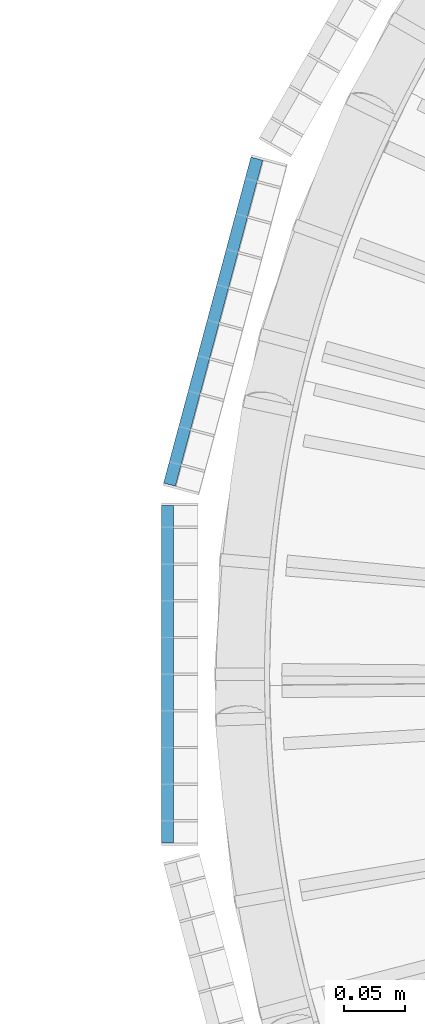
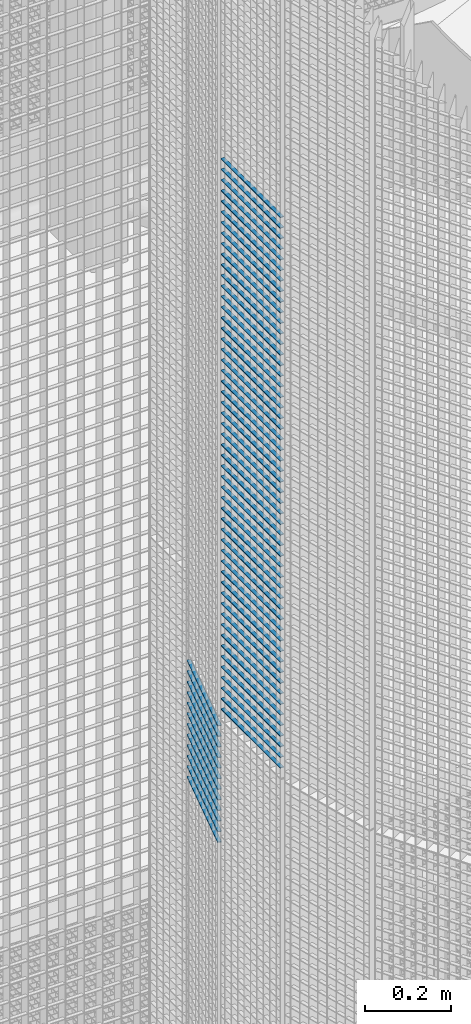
# One storey, part 194 of 1148: 65 beams, 2 elements without a shape of their own.
"""IFC2X3 building model written with IfcOpenShell, lengths in millimetres."""

import ifcopenshell
import ifcopenshell.guid

model = None  # the IFC model being written
_history = None  # IfcOwnerHistory: only IFC2X3 demands one
_inside = {}  # id of a spatial element -> (the spatial element, [elements in it])
_under = {}  # id of a project, library or spatial element -> (it, [spatial elements below it])
_declared = {}  # id of a project -> (the project, [libraries it declares])
_typed = {}  # id of a type object -> (the type object, [elements of that type])
_made_of = {}  # id of a material, layer set ... -> (it, [elements and type objects made of it])


def new_model(schema):
    """Start an empty IFC model of exactly this schema.

    Asked for "IFC4X3", IfcOpenShell would pick the latest addendum, in which some entities
    have other attributes; the version numbers below select the first issue.
    IFC2X3 requires an IfcOwnerHistory on every rooted entity: one is made here for all.
    """
    global model, _history
    if schema == "IFC4X3":
        model = ifcopenshell.file(schema_version=(4, 3, 0, 0))
    else:
        model = ifcopenshell.file(schema=schema)
    _inside.clear()
    _under.clear()
    _declared.clear()
    _typed.clear()
    _made_of.clear()
    _history = None
    if model.schema == "IFC2X3":
        org = make("IfcOrganization", Name="unknown")
        user = make(
            "IfcPersonAndOrganization",
            ThePerson=make("IfcPerson", FamilyName="unknown"),
            TheOrganization=org,
        )
        app = make(
            "IfcApplication",
            ApplicationDeveloper=org,
            Version="unknown",
            ApplicationFullName="unknown",
            ApplicationIdentifier="unknown",
        )
        _history = make(
            "IfcOwnerHistory",
            OwningUser=user,
            OwningApplication=app,
            ChangeAction="ADDED",
            CreationDate=0,
        )
    return model


def make(cls, **values):
    """One entity of the class cls with the attributes given. An attribute that is None is left unset."""
    return model.create_entity(
        cls, **{name: value for name, value in values.items() if value is not None}
    )


def rooted(cls, **values):
    """An entity with a GlobalId (a new one), such as an element, a storey or a relation."""
    return make(cls, GlobalId=ifcopenshell.guid.new(), OwnerHistory=_history, **values)


def si_unit(unit_type, name, prefix=None):
    """IfcSIUnit, for example si_unit("LENGTHUNIT", "METRE", prefix="MILLI")."""
    return make("IfcSIUnit", UnitType=unit_type, Prefix=prefix, Name=name)


def assignment(units):
    """IfcUnitAssignment: the units of a project."""
    return None if units is None else make("IfcUnitAssignment", Units=units)


def point(xyz):
    """IfcCartesianPoint."""
    return None if xyz is None else make("IfcCartesianPoint", Coordinates=xyz)


def direction(xyz):
    """IfcDirection."""
    return None if xyz is None else make("IfcDirection", DirectionRatios=xyz)


def frame(location, z_axis=None, x_axis=None):
    """IfcAxis2Placement3D, a coordinate frame: its origin and axes. An axis left out is left unset."""
    return make(
        "IfcAxis2Placement3D",
        Location=point(location),
        Axis=direction(z_axis),
        RefDirection=direction(x_axis),
    )


def frame_2d(location, x_axis=None):
    """IfcAxis2Placement2D, a coordinate frame in the plane: its origin and x axis."""
    return make(
        "IfcAxis2Placement2D", Location=point(location), RefDirection=direction(x_axis)
    )


def origin_with_axes():
    """The frame at (0, 0, 0) with the z axis (0, 0, 1) and the x axis (1, 0, 0) written out."""
    return frame((0.0, 0.0, 0.0), z_axis=(0.0, 0.0, 1.0), x_axis=(1.0, 0.0, 0.0))


def origin_2d_with_axis():
    """The frame at (0, 0) in the plane with the x axis (1, 0) written out."""
    return frame_2d((0.0, 0.0), x_axis=(1.0, 0.0))


def place(relative_to, where):
    """IfcLocalPlacement: puts the frame where relative to a parent placement (None: the world)."""
    return make(
        "IfcLocalPlacement", PlacementRelTo=relative_to, RelativePlacement=where
    )


def context(
    kind, dimensions, precision=None, world=None, true_north=None, identifier=None
):
    """IfcGeometricRepresentationContext, for example the 3D "Model" context."""
    return make(
        "IfcGeometricRepresentationContext",
        ContextIdentifier=identifier,
        ContextType=kind,
        CoordinateSpaceDimension=dimensions,
        Precision=precision,
        WorldCoordinateSystem=world,
        TrueNorth=true_north,
    )


def subcontext(parent, identifier, kind, view, scale=None):
    """IfcGeometricRepresentationSubContext, for example "Body" below "Model"."""
    return make(
        "IfcGeometricRepresentationSubContext",
        ContextIdentifier=identifier,
        ContextType=kind,
        ParentContext=parent,
        TargetScale=scale,
        TargetView=view,
    )


def project(units=None, contexts=None):
    """IfcProject with its units and contexts."""
    return rooted(
        "IfcProject",
        Name="project",
        RepresentationContexts=contexts,
        UnitsInContext=assignment(units),
    )


def spatial(cls, under=None, at=None, **own):
    """A site, building, storey or space (cls), placed at a placement, below another one or the project."""
    s = rooted(cls, ObjectPlacement=at, **own)
    if under is not None:
        _under.setdefault(under.id(), (under, []))[1].append(s)
    return s


def profile(cls, at=None, kind="AREA", **sizes):
    """A parametric profile (cls). Its sizes go by their IFC names, for example OverallWidth=200.0."""
    return make(cls, ProfileType=kind, Position=at, **sizes)


def rectangle(**sizes):
    """IfcRectangleProfileDef."""
    return profile("IfcRectangleProfileDef", **sizes)


def extrude(swept, where, along, depth):
    """IfcExtrudedAreaSolid: the profile swept, set in the frame where, extruded along a direction by depth."""
    return make(
        "IfcExtrudedAreaSolid",
        SweptArea=swept,
        Position=where,
        ExtrudedDirection=direction(along),
        Depth=depth,
    )


def shape(context_of_items, identifier, shape_type, items):
    """IfcShapeRepresentation: the items that make up one representation, for example the "Body"."""
    return make(
        "IfcShapeRepresentation",
        ContextOfItems=context_of_items,
        RepresentationIdentifier=identifier,
        RepresentationType=shape_type,
        Items=items,
    )


def material(Name=None, Category=None):
    """IfcMaterial."""
    return make("IfcMaterial", Name=Name, Category=Category)


def made_of(thing, what):
    """Note that an element or type object is made of a material, layer set ...; save() writes the relation."""
    if what is not None:
        _made_of.setdefault(what.id(), (what, []))[1].append(thing)
    return thing


def type_object(cls, material=None, **own):
    """A type object (cls), such as IfcWallType, which elements share."""
    return made_of(rooted(cls, **own), material)


def element(
    cls,
    number,
    at=None,
    inside=None,
    cuts=None,
    type_object=None,
    material=None,
    context=None,
    identifier="Body",
    shape_type=None,
    held_by="IfcProductDefinitionShape",
    body=None,
    shapes=None,
    **own,
):
    """One element of the class cls, such as IfcWall. Its Tag is "e" and its number.

    at: its placement. inside: the storey or other place that contains it. cuts: it is an
    opening in that element (IfcRelVoidsElement). A single representation is given by context,
    identifier, shape_type and body (its items); several are given by shapes. held_by: the class
    of the entity that holds the representations. save() writes the other relations.
    """
    e = rooted(cls, Tag="e%d" % number, ObjectPlacement=at, **own)
    if body is not None:
        shapes = [shape(context, identifier, shape_type, body)]
    if shapes is not None:
        e.Representation = make(held_by, Representations=shapes)
    if inside is not None:
        _inside.setdefault(inside.id(), (inside, []))[1].append(e)
    if cuts is not None:
        rooted(
            "IfcRelVoidsElement", RelatingBuildingElement=cuts, RelatedOpeningElement=e
        )
    if type_object is not None:
        _typed.setdefault(type_object.id(), (type_object, []))[1].append(e)
    return made_of(e, material)


def aggregate(whole, parts):
    """IfcRelAggregates: a whole, such as a stair, and the parts it consists of."""
    return rooted("IfcRelAggregates", RelatingObject=whole, RelatedObjects=parts)


def save(model, path):
    """Write the relations noted so far, then the file.

    IfcRelAggregates (storeys below a building ...), IfcRelContainedInSpatialStructure (elements
    in a storey), IfcRelDefinesByType, IfcRelAssociatesMaterial and IfcRelDeclares: one each for
    every whole, place, type object, material and project.
    """
    for whole, parts in _under.values():
        aggregate(whole, parts)
    for where, things in _inside.values():
        rooted(
            "IfcRelContainedInSpatialStructure",
            RelatedElements=things,
            RelatingStructure=where,
        )
    for kind, things in _typed.values():
        rooted("IfcRelDefinesByType", RelatedObjects=things, RelatingType=kind)
    for what, things in _made_of.values():
        rooted("IfcRelAssociatesMaterial", RelatedObjects=things, RelatingMaterial=what)
    for by, libraries in _declared.values():
        rooted("IfcRelDeclares", RelatingContext=by, RelatedDefinitions=libraries)
    model.write(path)


model = new_model("IFC2X3")

# Units and contexts
model_context = context("Model", 3, precision=1e-05, world=origin_with_axes())
body_context = subcontext(model_context, "Body", "Model", "MODEL_VIEW")
ifc_project = project(units=[si_unit("LENGTHUNIT", "METRE", prefix="MILLI"), si_unit("AREAUNIT", "SQUARE_METRE"), si_unit("VOLUMEUNIT", "CUBIC_METRE"), si_unit("MASSUNIT", "GRAM", prefix="KILO"), si_unit("TIMEUNIT", "SECOND"), si_unit("PLANEANGLEUNIT", "RADIAN"), si_unit("SOLIDANGLEUNIT", "STERADIAN"), si_unit("THERMODYNAMICTEMPERATUREUNIT", "DEGREE_CELSIUS"), si_unit("LUMINOUSINTENSITYUNIT", "LUMEN")], contexts=[model_context])

# Site, building, storey
site_placement = place(None, origin_with_axes())
site = spatial("IfcSite", under=ifc_project, at=site_placement, Name="Undefined", CompositionType="ELEMENT")
building_placement = place(site_placement, origin_with_axes())
building = spatial("IfcBuilding", under=site, at=building_placement, Name="Undefined", CompositionType="ELEMENT")
storey_placement = place(building_placement, origin_with_axes())
storey = spatial("IfcBuildingStorey", under=building, at=storey_placement, Name="Undefined", CompositionType="ELEMENT", Elevation=0.0)

# Assembly, beams
assembly_1_placement = place(storey_placement, origin_with_axes())
assembly_1 = element("IfcElementAssembly", 1, at=assembly_1_placement, inside=storey, Name="BORDURE", AssemblyPlace="NOTDEFINED", PredefinedType="NOTDEFINED")
ifc_material = material(Name="STEEL/S235JR")
beam_type = type_object("IfcBeamType", Name="PL2*10", PredefinedType="NOTDEFINED")
beam_1_placement = place(assembly_1_placement, frame((-1113.47999999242, 137.996003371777, 10590.0), z_axis=(-1.0, 0.0, 0.0), x_axis=(0.0, -1.0, 0.0)))
beam_1 = element("IfcBeam", 2, at=beam_1_placement, type_object=beam_type, material=ifc_material, Name="ENTRETOISE", context=body_context, shape_type="SweptSolid", body=[
    extrude(rectangle(XDim=2.0, YDim=10.0, at=origin_2d_with_axis()), frame((275.999999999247, 9.09494701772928e-13, 1.53210777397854e-14), z_axis=(-1.0, 0.0, 0.0), x_axis=(0.0, -1.0, 0.0)), (0.0, 0.0, 1.0), 276.0),
])
beam_2_placement = place(assembly_1_placement, frame((-1113.47999999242, 137.996003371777, 10560.0), z_axis=(-1.0, 0.0, 0.0), x_axis=(0.0, -1.0, 0.0)))
beam_2 = element("IfcBeam", 3, at=beam_2_placement, type_object=beam_type, material=ifc_material, Name="ENTRETOISE", context=body_context, shape_type="SweptSolid", body=[
    extrude(rectangle(XDim=2.0, YDim=10.0, at=origin_2d_with_axis()), frame((275.999999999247, 9.09494701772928e-13, 1.53210777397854e-14), z_axis=(-1.0, 0.0, 0.0), x_axis=(0.0, -1.0, 0.0)), (0.0, 0.0, 1.0), 276.0),
])
beam_3_placement = place(assembly_1_placement, frame((-1113.47999999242, 137.996003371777, 10530.0), z_axis=(-1.0, 0.0, 0.0), x_axis=(0.0, -1.0, 0.0)))
beam_3 = element("IfcBeam", 4, at=beam_3_placement, type_object=beam_type, material=ifc_material, Name="ENTRETOISE", context=body_context, shape_type="SweptSolid", body=[
    extrude(rectangle(XDim=2.0, YDim=10.0, at=origin_2d_with_axis()), frame((275.999999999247, 9.09494701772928e-13, 1.53210777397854e-14), z_axis=(-1.0, 0.0, 0.0), x_axis=(0.0, -1.0, 0.0)), (0.0, 0.0, 1.0), 276.0),
])
beam_4_placement = place(assembly_1_placement, frame((-1113.47999999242, 137.996003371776, 10500.0), z_axis=(-1.0, 0.0, 0.0), x_axis=(0.0, -1.0, 0.0)))
beam_4 = element("IfcBeam", 5, at=beam_4_placement, type_object=beam_type, material=ifc_material, Name="ENTRETOISE", context=body_context, shape_type="SweptSolid", body=[
    extrude(rectangle(XDim=2.0, YDim=10.0, at=origin_2d_with_axis()), frame((275.999999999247, 9.09494701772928e-13, 1.53210777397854e-14), z_axis=(-1.0, 0.0, 0.0), x_axis=(0.0, -1.0, 0.0)), (0.0, 0.0, 1.0), 276.0),
])
beam_5_placement = place(assembly_1_placement, frame((-1113.47999999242, 137.996003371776, 10470.0), z_axis=(-1.0, 0.0, 0.0), x_axis=(0.0, -1.0, 0.0)))
beam_5 = element("IfcBeam", 6, at=beam_5_placement, type_object=beam_type, material=ifc_material, Name="ENTRETOISE", context=body_context, shape_type="SweptSolid", body=[
    extrude(rectangle(XDim=2.0, YDim=10.0, at=origin_2d_with_axis()), frame((275.999999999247, 9.09494701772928e-13, 1.53210777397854e-14), z_axis=(-1.0, 0.0, 0.0), x_axis=(0.0, -1.0, 0.0)), (0.0, 0.0, 1.0), 276.0),
])
beam_6_placement = place(assembly_1_placement, frame((-1113.47999999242, 137.996003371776, 10440.0), z_axis=(-1.0, 0.0, 0.0), x_axis=(0.0, -1.0, 0.0)))
beam_6 = element("IfcBeam", 7, at=beam_6_placement, type_object=beam_type, material=ifc_material, Name="ENTRETOISE", context=body_context, shape_type="SweptSolid", body=[
    extrude(rectangle(XDim=2.0, YDim=10.0, at=origin_2d_with_axis()), frame((275.999999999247, 9.09494701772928e-13, 1.53210777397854e-14), z_axis=(-1.0, 0.0, 0.0), x_axis=(0.0, -1.0, 0.0)), (0.0, 0.0, 1.0), 276.0),
])
beam_7_placement = place(assembly_1_placement, frame((-1113.47999999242, 137.996003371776, 10410.0), z_axis=(-1.0, 0.0, 0.0), x_axis=(0.0, -1.0, 0.0)))
beam_7 = element("IfcBeam", 8, at=beam_7_placement, type_object=beam_type, material=ifc_material, Name="ENTRETOISE", context=body_context, shape_type="SweptSolid", body=[
    extrude(rectangle(XDim=2.0, YDim=10.0, at=origin_2d_with_axis()), frame((275.999999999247, 9.09494701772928e-13, 1.53210777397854e-14), z_axis=(-1.0, 0.0, 0.0), x_axis=(0.0, -1.0, 0.0)), (0.0, 0.0, 1.0), 276.0),
])
beam_8_placement = place(assembly_1_placement, frame((-1113.47999999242, 137.996003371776, 10380.0), z_axis=(-1.0, 0.0, 0.0), x_axis=(0.0, -1.0, 0.0)))
beam_8 = element("IfcBeam", 9, at=beam_8_placement, type_object=beam_type, material=ifc_material, Name="ENTRETOISE", context=body_context, shape_type="SweptSolid", body=[
    extrude(rectangle(XDim=2.0, YDim=10.0, at=origin_2d_with_axis()), frame((275.999999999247, 9.09494701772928e-13, 1.53210777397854e-14), z_axis=(-1.0, 0.0, 0.0), x_axis=(0.0, -1.0, 0.0)), (0.0, 0.0, 1.0), 276.0),
])
beam_9_placement = place(assembly_1_placement, frame((-1113.47999999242, 137.996003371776, 10350.0), z_axis=(-1.0, 0.0, 0.0), x_axis=(0.0, -1.0, 0.0)))
beam_9 = element("IfcBeam", 10, at=beam_9_placement, type_object=beam_type, material=ifc_material, Name="ENTRETOISE", context=body_context, shape_type="SweptSolid", body=[
    extrude(rectangle(XDim=2.0, YDim=10.0, at=origin_2d_with_axis()), frame((275.999999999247, 9.09494701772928e-13, 1.53210777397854e-14), z_axis=(-1.0, 0.0, 0.0), x_axis=(0.0, -1.0, 0.0)), (0.0, 0.0, 1.0), 276.0),
])
beam_10_placement = place(assembly_1_placement, frame((-1113.47999999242, 137.996003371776, 10320.0), z_axis=(-1.0, 0.0, 0.0), x_axis=(0.0, -1.0, 0.0)))
beam_10 = element("IfcBeam", 11, at=beam_10_placement, type_object=beam_type, material=ifc_material, Name="ENTRETOISE", context=body_context, shape_type="SweptSolid", body=[
    extrude(rectangle(XDim=2.0, YDim=10.0, at=origin_2d_with_axis()), frame((275.999999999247, 9.09494701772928e-13, 1.53210777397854e-14), z_axis=(-1.0, 0.0, 0.0), x_axis=(0.0, -1.0, 0.0)), (0.0, 0.0, 1.0), 276.0),
])
beam_11_placement = place(assembly_1_placement, frame((-1113.47999999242, 137.996003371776, 10290.0), z_axis=(-1.0, 0.0, 0.0), x_axis=(0.0, -1.0, 0.0)))
beam_11 = element("IfcBeam", 12, at=beam_11_placement, type_object=beam_type, material=ifc_material, Name="ENTRETOISE", context=body_context, shape_type="SweptSolid", body=[
    extrude(rectangle(XDim=2.0, YDim=10.0, at=origin_2d_with_axis()), frame((275.999999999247, 9.09494701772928e-13, 1.53210777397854e-14), z_axis=(-1.0, 0.0, 0.0), x_axis=(0.0, -1.0, 0.0)), (0.0, 0.0, 1.0), 276.0),
])
beam_12_placement = place(assembly_1_placement, frame((-1113.47999999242, 137.996003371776, 10260.0), z_axis=(-1.0, 0.0, 0.0), x_axis=(0.0, -1.0, 0.0)))
beam_12 = element("IfcBeam", 13, at=beam_12_placement, type_object=beam_type, material=ifc_material, Name="ENTRETOISE", context=body_context, shape_type="SweptSolid", body=[
    extrude(rectangle(XDim=2.0, YDim=10.0, at=origin_2d_with_axis()), frame((275.999999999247, 9.09494701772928e-13, 1.53210777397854e-14), z_axis=(-1.0, 0.0, 0.0), x_axis=(0.0, -1.0, 0.0)), (0.0, 0.0, 1.0), 276.0),
])
beam_13_placement = place(assembly_1_placement, frame((-1113.47999999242, 137.996003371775, 10230.0), z_axis=(-1.0, 0.0, 0.0), x_axis=(0.0, -1.0, 0.0)))
beam_13 = element("IfcBeam", 14, at=beam_13_placement, type_object=beam_type, material=ifc_material, Name="ENTRETOISE", context=body_context, shape_type="SweptSolid", body=[
    extrude(rectangle(XDim=2.0, YDim=10.0, at=origin_2d_with_axis()), frame((275.999999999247, 9.09494701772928e-13, 1.53210777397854e-14), z_axis=(-1.0, 0.0, 0.0), x_axis=(0.0, -1.0, 0.0)), (0.0, 0.0, 1.0), 276.0),
])
beam_14_placement = place(assembly_1_placement, frame((-1113.47999999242, 137.996003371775, 10200.0), z_axis=(-1.0, 0.0, 0.0), x_axis=(0.0, -1.0, 0.0)))
beam_14 = element("IfcBeam", 15, at=beam_14_placement, type_object=beam_type, material=ifc_material, Name="ENTRETOISE", context=body_context, shape_type="SweptSolid", body=[
    extrude(rectangle(XDim=2.0, YDim=10.0, at=origin_2d_with_axis()), frame((275.999999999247, 9.09494701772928e-13, 1.53210777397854e-14), z_axis=(-1.0, 0.0, 0.0), x_axis=(0.0, -1.0, 0.0)), (0.0, 0.0, 1.0), 276.0),
])
beam_15_placement = place(assembly_1_placement, frame((-1113.47999999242, 137.996003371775, 10170.0), z_axis=(-1.0, 0.0, 0.0), x_axis=(0.0, -1.0, 0.0)))
beam_15 = element("IfcBeam", 16, at=beam_15_placement, type_object=beam_type, material=ifc_material, Name="ENTRETOISE", context=body_context, shape_type="SweptSolid", body=[
    extrude(rectangle(XDim=2.0, YDim=10.0, at=origin_2d_with_axis()), frame((275.999999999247, 9.09494701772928e-13, 1.53210777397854e-14), z_axis=(-1.0, 0.0, 0.0), x_axis=(0.0, -1.0, 0.0)), (0.0, 0.0, 1.0), 276.0),
])
beam_16_placement = place(assembly_1_placement, frame((-1113.47999999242, 137.996003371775, 10140.0), z_axis=(-1.0, 0.0, 0.0), x_axis=(0.0, -1.0, 0.0)))
beam_16 = element("IfcBeam", 17, at=beam_16_placement, type_object=beam_type, material=ifc_material, Name="ENTRETOISE", context=body_context, shape_type="SweptSolid", body=[
    extrude(rectangle(XDim=2.0, YDim=10.0, at=origin_2d_with_axis()), frame((275.999999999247, 9.09494701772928e-13, 1.53210777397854e-14), z_axis=(-1.0, 0.0, 0.0), x_axis=(0.0, -1.0, 0.0)), (0.0, 0.0, 1.0), 276.0),
])
beam_17_placement = place(assembly_1_placement, frame((-1113.47999999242, 137.996003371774, 9720.0), z_axis=(-1.0, 0.0, 0.0), x_axis=(0.0, -1.0, 0.0)))
beam_17 = element("IfcBeam", 18, at=beam_17_placement, type_object=beam_type, material=ifc_material, Name="ENTRETOISE", context=body_context, shape_type="SweptSolid", body=[
    extrude(rectangle(XDim=2.0, YDim=10.0, at=origin_2d_with_axis()), frame((275.999999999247, 9.09494701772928e-13, 1.53210777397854e-14), z_axis=(-1.0, 0.0, 0.0), x_axis=(0.0, -1.0, 0.0)), (0.0, 0.0, 1.0), 276.0),
])
beam_18_placement = place(assembly_1_placement, frame((-1113.47999999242, 137.996003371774, 9690.0), z_axis=(-1.0, 0.0, 0.0), x_axis=(0.0, -1.0, 0.0)))
beam_18 = element("IfcBeam", 19, at=beam_18_placement, type_object=beam_type, material=ifc_material, Name="ENTRETOISE", context=body_context, shape_type="SweptSolid", body=[
    extrude(rectangle(XDim=2.0, YDim=10.0, at=origin_2d_with_axis()), frame((275.999999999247, 9.09494701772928e-13, 1.53210777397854e-14), z_axis=(-1.0, 0.0, 0.0), x_axis=(0.0, -1.0, 0.0)), (0.0, 0.0, 1.0), 276.0),
])
beam_19_placement = place(assembly_1_placement, frame((-1113.47999999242, 137.996003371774, 9750.0), z_axis=(-1.0, 0.0, 0.0), x_axis=(0.0, -1.0, 0.0)))
beam_19 = element("IfcBeam", 20, at=beam_19_placement, type_object=beam_type, material=ifc_material, Name="ENTRETOISE", context=body_context, shape_type="SweptSolid", body=[
    extrude(rectangle(XDim=2.0, YDim=10.0, at=origin_2d_with_axis()), frame((275.999999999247, 9.09494701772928e-13, 1.53210777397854e-14), z_axis=(-1.0, 0.0, 0.0), x_axis=(0.0, -1.0, 0.0)), (0.0, 0.0, 1.0), 276.0),
])
beam_20_placement = place(assembly_1_placement, frame((-1113.47999999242, 137.996003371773, 9660.0), z_axis=(-1.0, 0.0, 0.0), x_axis=(0.0, -1.0, 0.0)))
beam_20 = element("IfcBeam", 21, at=beam_20_placement, type_object=beam_type, material=ifc_material, Name="ENTRETOISE", context=body_context, shape_type="SweptSolid", body=[
    extrude(rectangle(XDim=2.0, YDim=10.0, at=origin_2d_with_axis()), frame((275.999999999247, 9.09494701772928e-13, 1.53210777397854e-14), z_axis=(-1.0, 0.0, 0.0), x_axis=(0.0, -1.0, 0.0)), (0.0, 0.0, 1.0), 276.0),
])
beam_21_placement = place(assembly_1_placement, frame((-1113.47999999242, 137.996003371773, 9630.0), z_axis=(-1.0, 0.0, 0.0), x_axis=(0.0, -1.0, 0.0)))
beam_21 = element("IfcBeam", 22, at=beam_21_placement, type_object=beam_type, material=ifc_material, Name="ENTRETOISE", context=body_context, shape_type="SweptSolid", body=[
    extrude(rectangle(XDim=2.0, YDim=10.0, at=origin_2d_with_axis()), frame((275.999999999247, 9.09494701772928e-13, 1.53210777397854e-14), z_axis=(-1.0, 0.0, 0.0), x_axis=(0.0, -1.0, 0.0)), (0.0, 0.0, 1.0), 276.0),
])
beam_22_placement = place(assembly_1_placement, frame((-1113.47999999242, 137.996003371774, 9780.0), z_axis=(-1.0, 0.0, 0.0), x_axis=(0.0, -1.0, 0.0)))
beam_22 = element("IfcBeam", 23, at=beam_22_placement, type_object=beam_type, material=ifc_material, Name="ENTRETOISE", context=body_context, shape_type="SweptSolid", body=[
    extrude(rectangle(XDim=2.0, YDim=10.0, at=origin_2d_with_axis()), frame((275.999999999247, 9.09494701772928e-13, 1.53210777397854e-14), z_axis=(-1.0, 0.0, 0.0), x_axis=(0.0, -1.0, 0.0)), (0.0, 0.0, 1.0), 276.0),
])
beam_23_placement = place(assembly_1_placement, frame((-1113.47999999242, 137.996003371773, 9600.0), z_axis=(-1.0, 0.0, 0.0), x_axis=(0.0, -1.0, 0.0)))
beam_23 = element("IfcBeam", 24, at=beam_23_placement, type_object=beam_type, material=ifc_material, Name="ENTRETOISE", context=body_context, shape_type="SweptSolid", body=[
    extrude(rectangle(XDim=2.0, YDim=10.0, at=origin_2d_with_axis()), frame((275.999999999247, 9.09494701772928e-13, 1.53210777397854e-14), z_axis=(-1.0, 0.0, 0.0), x_axis=(0.0, -1.0, 0.0)), (0.0, 0.0, 1.0), 276.0),
])
beam_24_placement = place(assembly_1_placement, frame((-1113.47999999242, 137.996003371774, 9810.0), z_axis=(-1.0, 0.0, 0.0), x_axis=(0.0, -1.0, 0.0)))
beam_24 = element("IfcBeam", 25, at=beam_24_placement, type_object=beam_type, material=ifc_material, Name="ENTRETOISE", context=body_context, shape_type="SweptSolid", body=[
    extrude(rectangle(XDim=2.0, YDim=10.0, at=origin_2d_with_axis()), frame((275.999999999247, 9.09494701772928e-13, 1.53210777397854e-14), z_axis=(-1.0, 0.0, 0.0), x_axis=(0.0, -1.0, 0.0)), (0.0, 0.0, 1.0), 276.0),
])
beam_25_placement = place(assembly_1_placement, frame((-1113.47999999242, 137.996003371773, 9570.0), z_axis=(-1.0, 0.0, 0.0), x_axis=(0.0, -1.0, 0.0)))
beam_25 = element("IfcBeam", 26, at=beam_25_placement, type_object=beam_type, material=ifc_material, Name="ENTRETOISE", context=body_context, shape_type="SweptSolid", body=[
    extrude(rectangle(XDim=2.0, YDim=10.0, at=origin_2d_with_axis()), frame((275.999999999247, 9.09494701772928e-13, 1.53210777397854e-14), z_axis=(-1.0, 0.0, 0.0), x_axis=(0.0, -1.0, 0.0)), (0.0, 0.0, 1.0), 276.0),
])
beam_26_placement = place(assembly_1_placement, frame((-1113.47999999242, 137.996003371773, 9540.0), z_axis=(-1.0, 0.0, 0.0), x_axis=(0.0, -1.0, 0.0)))
beam_26 = element("IfcBeam", 27, at=beam_26_placement, type_object=beam_type, material=ifc_material, Name="ENTRETOISE", context=body_context, shape_type="SweptSolid", body=[
    extrude(rectangle(XDim=2.0, YDim=10.0, at=origin_2d_with_axis()), frame((275.999999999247, 9.09494701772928e-13, 1.53210777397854e-14), z_axis=(-1.0, 0.0, 0.0), x_axis=(0.0, -1.0, 0.0)), (0.0, 0.0, 1.0), 276.0),
])
beam_27_placement = place(assembly_1_placement, frame((-1113.47999999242, 137.996003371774, 9840.0), z_axis=(-1.0, 0.0, 0.0), x_axis=(0.0, -1.0, 0.0)))
beam_27 = element("IfcBeam", 28, at=beam_27_placement, type_object=beam_type, material=ifc_material, Name="ENTRETOISE", context=body_context, shape_type="SweptSolid", body=[
    extrude(rectangle(XDim=2.0, YDim=10.0, at=origin_2d_with_axis()), frame((275.999999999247, 9.09494701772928e-13, 1.53210777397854e-14), z_axis=(-1.0, 0.0, 0.0), x_axis=(0.0, -1.0, 0.0)), (0.0, 0.0, 1.0), 276.0),
])
beam_28_placement = place(assembly_1_placement, frame((-1113.47999999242, 137.996003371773, 9510.0), z_axis=(-1.0, 0.0, 0.0), x_axis=(0.0, -1.0, 0.0)))
beam_28 = element("IfcBeam", 29, at=beam_28_placement, type_object=beam_type, material=ifc_material, Name="ENTRETOISE", context=body_context, shape_type="SweptSolid", body=[
    extrude(rectangle(XDim=2.0, YDim=10.0, at=origin_2d_with_axis()), frame((275.999999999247, 9.09494701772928e-13, 1.53210777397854e-14), z_axis=(-1.0, 0.0, 0.0), x_axis=(0.0, -1.0, 0.0)), (0.0, 0.0, 1.0), 276.0),
])
beam_29_placement = place(assembly_1_placement, frame((-1113.47999999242, 137.996003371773, 9480.0), z_axis=(-1.0, 0.0, 0.0), x_axis=(0.0, -1.0, 0.0)))
beam_29 = element("IfcBeam", 30, at=beam_29_placement, type_object=beam_type, material=ifc_material, Name="ENTRETOISE", context=body_context, shape_type="SweptSolid", body=[
    extrude(rectangle(XDim=2.0, YDim=10.0, at=origin_2d_with_axis()), frame((275.999999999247, 9.09494701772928e-13, 1.53210777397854e-14), z_axis=(-1.0, 0.0, 0.0), x_axis=(0.0, -1.0, 0.0)), (0.0, 0.0, 1.0), 276.0),
])
beam_30_placement = place(assembly_1_placement, frame((-1113.47999999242, 137.996003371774, 9870.0), z_axis=(-1.0, 0.0, 0.0), x_axis=(0.0, -1.0, 0.0)))
beam_30 = element("IfcBeam", 31, at=beam_30_placement, type_object=beam_type, material=ifc_material, Name="ENTRETOISE", context=body_context, shape_type="SweptSolid", body=[
    extrude(rectangle(XDim=2.0, YDim=10.0, at=origin_2d_with_axis()), frame((275.999999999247, 9.09494701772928e-13, 1.53210777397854e-14), z_axis=(-1.0, 0.0, 0.0), x_axis=(0.0, -1.0, 0.0)), (0.0, 0.0, 1.0), 276.0),
])
beam_31_placement = place(assembly_1_placement, frame((-1113.47999999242, 137.996003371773, 9450.0), z_axis=(-1.0, 0.0, 0.0), x_axis=(0.0, -1.0, 0.0)))
beam_31 = element("IfcBeam", 32, at=beam_31_placement, type_object=beam_type, material=ifc_material, Name="ENTRETOISE", context=body_context, shape_type="SweptSolid", body=[
    extrude(rectangle(XDim=2.0, YDim=10.0, at=origin_2d_with_axis()), frame((275.999999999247, 9.09494701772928e-13, 1.53210777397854e-14), z_axis=(-1.0, 0.0, 0.0), x_axis=(0.0, -1.0, 0.0)), (0.0, 0.0, 1.0), 276.0),
])
beam_32_placement = place(assembly_1_placement, frame((-1113.47999999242, 137.996003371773, 9420.0), z_axis=(-1.0, 0.0, 0.0), x_axis=(0.0, -1.0, 0.0)))
beam_32 = element("IfcBeam", 33, at=beam_32_placement, type_object=beam_type, material=ifc_material, Name="ENTRETOISE", context=body_context, shape_type="SweptSolid", body=[
    extrude(rectangle(XDim=2.0, YDim=10.0, at=origin_2d_with_axis()), frame((275.999999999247, 9.09494701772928e-13, 1.53210777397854e-14), z_axis=(-1.0, 0.0, 0.0), x_axis=(0.0, -1.0, 0.0)), (0.0, 0.0, 1.0), 276.0),
])
beam_33_placement = place(assembly_1_placement, frame((-1113.47999999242, 137.996003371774, 9900.0), z_axis=(-1.0, 0.0, 0.0), x_axis=(0.0, -1.0, 0.0)))
beam_33 = element("IfcBeam", 34, at=beam_33_placement, type_object=beam_type, material=ifc_material, Name="ENTRETOISE", context=body_context, shape_type="SweptSolid", body=[
    extrude(rectangle(XDim=2.0, YDim=10.0, at=origin_2d_with_axis()), frame((275.999999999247, 9.09494701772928e-13, 1.53210777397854e-14), z_axis=(-1.0, 0.0, 0.0), x_axis=(0.0, -1.0, 0.0)), (0.0, 0.0, 1.0), 276.0),
])
beam_34_placement = place(assembly_1_placement, frame((-1113.47999999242, 137.996003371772, 9390.0), z_axis=(-1.0, 0.0, 0.0), x_axis=(0.0, -1.0, 0.0)))
beam_34 = element("IfcBeam", 35, at=beam_34_placement, type_object=beam_type, material=ifc_material, Name="ENTRETOISE", context=body_context, shape_type="SweptSolid", body=[
    extrude(rectangle(XDim=2.0, YDim=10.0, at=origin_2d_with_axis()), frame((275.999999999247, 9.09494701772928e-13, 1.53210777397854e-14), z_axis=(-1.0, 0.0, 0.0), x_axis=(0.0, -1.0, 0.0)), (0.0, 0.0, 1.0), 276.0),
])
beam_35_placement = place(assembly_1_placement, frame((-1113.47999999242, 137.996003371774, 9930.0), z_axis=(-1.0, 0.0, 0.0), x_axis=(0.0, -1.0, 0.0)))
beam_35 = element("IfcBeam", 36, at=beam_35_placement, type_object=beam_type, material=ifc_material, Name="ENTRETOISE", context=body_context, shape_type="SweptSolid", body=[
    extrude(rectangle(XDim=2.0, YDim=10.0, at=origin_2d_with_axis()), frame((275.999999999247, 9.09494701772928e-13, 1.53210777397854e-14), z_axis=(-1.0, 0.0, 0.0), x_axis=(0.0, -1.0, 0.0)), (0.0, 0.0, 1.0), 276.0),
])
beam_36_placement = place(assembly_1_placement, frame((-1113.47999999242, 137.996003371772, 9360.0), z_axis=(-1.0, 0.0, 0.0), x_axis=(0.0, -1.0, 0.0)))
beam_36 = element("IfcBeam", 37, at=beam_36_placement, type_object=beam_type, material=ifc_material, Name="ENTRETOISE", context=body_context, shape_type="SweptSolid", body=[
    extrude(rectangle(XDim=2.0, YDim=10.0, at=origin_2d_with_axis()), frame((275.999999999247, 9.09494701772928e-13, 1.53210777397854e-14), z_axis=(-1.0, 0.0, 0.0), x_axis=(0.0, -1.0, 0.0)), (0.0, 0.0, 1.0), 276.0),
])
beam_37_placement = place(assembly_1_placement, frame((-1113.47999999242, 137.996003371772, 9330.0), z_axis=(-1.0, 0.0, 0.0), x_axis=(0.0, -1.0, 0.0)))
beam_37 = element("IfcBeam", 38, at=beam_37_placement, type_object=beam_type, material=ifc_material, Name="ENTRETOISE", context=body_context, shape_type="SweptSolid", body=[
    extrude(rectangle(XDim=2.0, YDim=10.0, at=origin_2d_with_axis()), frame((275.999999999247, 9.09494701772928e-13, 1.53210777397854e-14), z_axis=(-1.0, 0.0, 0.0), x_axis=(0.0, -1.0, 0.0)), (0.0, 0.0, 1.0), 276.0),
])
beam_38_placement = place(assembly_1_placement, frame((-1113.47999999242, 137.996003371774, 9960.0), z_axis=(-1.0, 0.0, 0.0), x_axis=(0.0, -1.0, 0.0)))
beam_38 = element("IfcBeam", 39, at=beam_38_placement, type_object=beam_type, material=ifc_material, Name="ENTRETOISE", context=body_context, shape_type="SweptSolid", body=[
    extrude(rectangle(XDim=2.0, YDim=10.0, at=origin_2d_with_axis()), frame((275.999999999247, 9.09494701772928e-13, 1.53210777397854e-14), z_axis=(-1.0, 0.0, 0.0), x_axis=(0.0, -1.0, 0.0)), (0.0, 0.0, 1.0), 276.0),
])
beam_39_placement = place(assembly_1_placement, frame((-1113.47999999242, 137.996003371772, 9300.0), z_axis=(-1.0, 0.0, 0.0), x_axis=(0.0, -1.0, 0.0)))
beam_39 = element("IfcBeam", 40, at=beam_39_placement, type_object=beam_type, material=ifc_material, Name="ENTRETOISE", context=body_context, shape_type="SweptSolid", body=[
    extrude(rectangle(XDim=2.0, YDim=10.0, at=origin_2d_with_axis()), frame((275.999999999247, 9.09494701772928e-13, 1.53210777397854e-14), z_axis=(-1.0, 0.0, 0.0), x_axis=(0.0, -1.0, 0.0)), (0.0, 0.0, 1.0), 276.0),
])
beam_40_placement = place(assembly_1_placement, frame((-1113.47999999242, 137.996003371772, 9270.0), z_axis=(-1.0, 0.0, 0.0), x_axis=(0.0, -1.0, 0.0)))
beam_40 = element("IfcBeam", 41, at=beam_40_placement, type_object=beam_type, material=ifc_material, Name="ENTRETOISE", context=body_context, shape_type="SweptSolid", body=[
    extrude(rectangle(XDim=2.0, YDim=10.0, at=origin_2d_with_axis()), frame((275.999999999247, 9.09494701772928e-13, 1.53210777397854e-14), z_axis=(-1.0, 0.0, 0.0), x_axis=(0.0, -1.0, 0.0)), (0.0, 0.0, 1.0), 276.0),
])
beam_41_placement = place(assembly_1_placement, frame((-1113.47999999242, 137.996003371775, 9990.0), z_axis=(-1.0, 0.0, 0.0), x_axis=(0.0, -1.0, 0.0)))
beam_41 = element("IfcBeam", 42, at=beam_41_placement, type_object=beam_type, material=ifc_material, Name="ENTRETOISE", context=body_context, shape_type="SweptSolid", body=[
    extrude(rectangle(XDim=2.0, YDim=10.0, at=origin_2d_with_axis()), frame((275.999999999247, 9.09494701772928e-13, 1.53210777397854e-14), z_axis=(-1.0, 0.0, 0.0), x_axis=(0.0, -1.0, 0.0)), (0.0, 0.0, 1.0), 276.0),
])
beam_42_placement = place(assembly_1_placement, frame((-1113.47999999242, 137.996003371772, 9240.0), z_axis=(-1.0, 0.0, 0.0), x_axis=(0.0, -1.0, 0.0)))
beam_42 = element("IfcBeam", 43, at=beam_42_placement, type_object=beam_type, material=ifc_material, Name="ENTRETOISE", context=body_context, shape_type="SweptSolid", body=[
    extrude(rectangle(XDim=2.0, YDim=10.0, at=origin_2d_with_axis()), frame((275.999999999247, 9.09494701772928e-13, 1.53210777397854e-14), z_axis=(-1.0, 0.0, 0.0), x_axis=(0.0, -1.0, 0.0)), (0.0, 0.0, 1.0), 276.0),
])
beam_43_placement = place(assembly_1_placement, frame((-1113.47999999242, 137.996003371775, 10020.0), z_axis=(-1.0, 0.0, 0.0), x_axis=(0.0, -1.0, 0.0)))
beam_43 = element("IfcBeam", 44, at=beam_43_placement, type_object=beam_type, material=ifc_material, Name="ENTRETOISE", context=body_context, shape_type="SweptSolid", body=[
    extrude(rectangle(XDim=2.0, YDim=10.0, at=origin_2d_with_axis()), frame((275.999999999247, 9.09494701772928e-13, 1.53210777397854e-14), z_axis=(-1.0, 0.0, 0.0), x_axis=(0.0, -1.0, 0.0)), (0.0, 0.0, 1.0), 276.0),
])
beam_44_placement = place(assembly_1_placement, frame((-1113.47999999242, 137.996003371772, 9210.0), z_axis=(-1.0, 0.0, 0.0), x_axis=(0.0, -1.0, 0.0)))
beam_44 = element("IfcBeam", 45, at=beam_44_placement, type_object=beam_type, material=ifc_material, Name="ENTRETOISE", context=body_context, shape_type="SweptSolid", body=[
    extrude(rectangle(XDim=2.0, YDim=10.0, at=origin_2d_with_axis()), frame((275.999999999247, 9.09494701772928e-13, 1.53210777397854e-14), z_axis=(-1.0, 0.0, 0.0), x_axis=(0.0, -1.0, 0.0)), (0.0, 0.0, 1.0), 276.0),
])
beam_45_placement = place(assembly_1_placement, frame((-1113.47999999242, 137.996003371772, 9180.0), z_axis=(-1.0, 0.0, 0.0), x_axis=(0.0, -1.0, 0.0)))
beam_45 = element("IfcBeam", 46, at=beam_45_placement, type_object=beam_type, material=ifc_material, Name="ENTRETOISE", context=body_context, shape_type="SweptSolid", body=[
    extrude(rectangle(XDim=2.0, YDim=10.0, at=origin_2d_with_axis()), frame((275.999999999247, 9.09494701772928e-13, 1.53210777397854e-14), z_axis=(-1.0, 0.0, 0.0), x_axis=(0.0, -1.0, 0.0)), (0.0, 0.0, 1.0), 276.0),
])
beam_46_placement = place(assembly_1_placement, frame((-1113.47999999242, 137.996003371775, 10050.0), z_axis=(-1.0, 0.0, 0.0), x_axis=(0.0, -1.0, 0.0)))
beam_46 = element("IfcBeam", 47, at=beam_46_placement, type_object=beam_type, material=ifc_material, Name="ENTRETOISE", context=body_context, shape_type="SweptSolid", body=[
    extrude(rectangle(XDim=2.0, YDim=10.0, at=origin_2d_with_axis()), frame((275.999999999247, 9.09494701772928e-13, 1.53210777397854e-14), z_axis=(-1.0, 0.0, 0.0), x_axis=(0.0, -1.0, 0.0)), (0.0, 0.0, 1.0), 276.0),
])
beam_47_placement = place(assembly_1_placement, frame((-1113.47999999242, 137.996003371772, 9150.0), z_axis=(-1.0, 0.0, 0.0), x_axis=(0.0, -1.0, 0.0)))
beam_47 = element("IfcBeam", 48, at=beam_47_placement, type_object=beam_type, material=ifc_material, Name="ENTRETOISE", context=body_context, shape_type="SweptSolid", body=[
    extrude(rectangle(XDim=2.0, YDim=10.0, at=origin_2d_with_axis()), frame((275.999999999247, 9.09494701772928e-13, 1.53210777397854e-14), z_axis=(-1.0, 0.0, 0.0), x_axis=(0.0, -1.0, 0.0)), (0.0, 0.0, 1.0), 276.0),
])
beam_48_placement = place(assembly_1_placement, frame((-1113.47999999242, 137.996003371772, 9120.0), z_axis=(-1.0, 0.0, 0.0), x_axis=(0.0, -1.0, 0.0)))
beam_48 = element("IfcBeam", 49, at=beam_48_placement, type_object=beam_type, material=ifc_material, Name="ENTRETOISE", context=body_context, shape_type="SweptSolid", body=[
    extrude(rectangle(XDim=2.0, YDim=10.0, at=origin_2d_with_axis()), frame((275.999999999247, 9.09494701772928e-13, 1.53210777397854e-14), z_axis=(-1.0, 0.0, 0.0), x_axis=(0.0, -1.0, 0.0)), (0.0, 0.0, 1.0), 276.0),
])
beam_49_placement = place(assembly_1_placement, frame((-1113.47999999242, 137.996003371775, 10080.0), z_axis=(-1.0, 0.0, 0.0), x_axis=(0.0, -1.0, 0.0)))
beam_49 = element("IfcBeam", 50, at=beam_49_placement, type_object=beam_type, material=ifc_material, Name="ENTRETOISE", context=body_context, shape_type="SweptSolid", body=[
    extrude(rectangle(XDim=2.0, YDim=10.0, at=origin_2d_with_axis()), frame((275.999999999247, 9.09494701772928e-13, 1.53210777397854e-14), z_axis=(-1.0, 0.0, 0.0), x_axis=(0.0, -1.0, 0.0)), (0.0, 0.0, 1.0), 276.0),
])
beam_50_placement = place(assembly_1_placement, frame((-1113.47999999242, 137.996003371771, 9090.0), z_axis=(-1.0, 0.0, 0.0), x_axis=(0.0, -1.0, 0.0)))
beam_50 = element("IfcBeam", 51, at=beam_50_placement, type_object=beam_type, material=ifc_material, Name="ENTRETOISE", context=body_context, shape_type="SweptSolid", body=[
    extrude(rectangle(XDim=2.0, YDim=10.0, at=origin_2d_with_axis()), frame((275.999999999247, 9.09494701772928e-13, 1.53210777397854e-14), z_axis=(-1.0, 0.0, 0.0), x_axis=(0.0, -1.0, 0.0)), (0.0, 0.0, 1.0), 276.0),
])
beam_51_placement = place(assembly_1_placement, frame((-1113.47999999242, 137.996003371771, 9060.0), z_axis=(-1.0, 0.0, 0.0), x_axis=(0.0, -1.0, 0.0)))
beam_51 = element("IfcBeam", 52, at=beam_51_placement, type_object=beam_type, material=ifc_material, Name="ENTRETOISE", context=body_context, shape_type="SweptSolid", body=[
    extrude(rectangle(XDim=2.0, YDim=10.0, at=origin_2d_with_axis()), frame((275.999999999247, 9.09494701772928e-13, 1.53210777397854e-14), z_axis=(-1.0, 0.0, 0.0), x_axis=(0.0, -1.0, 0.0)), (0.0, 0.0, 1.0), 276.0),
])
beam_52_placement = place(assembly_1_placement, frame((-1113.47999999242, 137.996003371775, 10110.0), z_axis=(-1.0, 0.0, 0.0), x_axis=(0.0, -1.0, 0.0)))
beam_52 = element("IfcBeam", 53, at=beam_52_placement, type_object=beam_type, material=ifc_material, Name="ENTRETOISE", context=body_context, shape_type="SweptSolid", body=[
    extrude(rectangle(XDim=2.0, YDim=10.0, at=origin_2d_with_axis()), frame((275.999999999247, 9.09494701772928e-13, 1.53210777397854e-14), z_axis=(-1.0, 0.0, 0.0), x_axis=(0.0, -1.0, 0.0)), (0.0, 0.0, 1.0), 276.0),
])
beam_53_placement = place(assembly_1_placement, frame((-1113.47999999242, 137.99600337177, 9030.0), z_axis=(-1.0, 0.0, 0.0), x_axis=(0.0, -1.0, 0.0)))
beam_53 = element("IfcBeam", 54, at=beam_53_placement, type_object=beam_type, material=ifc_material, Name="ENTRETOISE", context=body_context, shape_type="SweptSolid", body=[
    extrude(rectangle(XDim=2.0, YDim=10.0, at=origin_2d_with_axis()), frame((275.999999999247, 9.09494701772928e-13, 1.53210777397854e-14), z_axis=(-1.0, 0.0, 0.0), x_axis=(0.0, -1.0, 0.0)), (0.0, 0.0, 1.0), 276.0),
])
aggregate(assembly_1, [beam_1, beam_2, beam_3, beam_4, beam_5, beam_6, beam_7, beam_8, beam_9, beam_10, beam_11, beam_12, beam_13, beam_14, beam_15, beam_16, beam_17, beam_18, beam_19, beam_20, beam_21, beam_22, beam_23, beam_24, beam_25, beam_26, beam_27, beam_28, beam_29, beam_30, beam_31, beam_32, beam_33, beam_34, beam_35, beam_36, beam_37, beam_38, beam_39, beam_40, beam_41, beam_42, beam_43, beam_44, beam_45, beam_46, beam_47, beam_48, beam_49, beam_50, beam_51, beam_52, beam_53])

assembly_2_placement = place(storey_placement, origin_with_axes())
assembly_2 = element("IfcElementAssembly", 55, at=assembly_2_placement, inside=storey, Name="BORDURE", AssemblyPlace="NOTDEFINED", PredefinedType="NOTDEFINED")
beam_54_placement = place(assembly_2_placement, frame((-1040.30888419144, 421.61803829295, 8970.0), z_axis=(-0.965925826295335, 0.258819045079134, 0.0), x_axis=(-0.258819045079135, -0.965925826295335, 0.0)))
beam_54 = element("IfcBeam", 56, at=beam_54_placement, type_object=beam_type, material=ifc_material, Name="ENTRETOISE", context=body_context, shape_type="SweptSolid", body=[
    extrude(rectangle(XDim=2.0, YDim=10.0, at=origin_2d_with_axis()), frame((275.999999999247, 9.09494701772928e-13, 1.53210777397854e-14), z_axis=(-1.0, 0.0, 0.0), x_axis=(0.0, -1.0, 0.0)), (0.0, 0.0, 1.0), 276.0),
])
beam_55_placement = place(assembly_2_placement, frame((-1040.30888419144, 421.61803829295, 8940.0), z_axis=(-0.965925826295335, 0.258819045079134, 0.0), x_axis=(-0.258819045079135, -0.965925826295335, 0.0)))
beam_55 = element("IfcBeam", 57, at=beam_55_placement, type_object=beam_type, material=ifc_material, Name="ENTRETOISE", context=body_context, shape_type="SweptSolid", body=[
    extrude(rectangle(XDim=2.0, YDim=10.0, at=origin_2d_with_axis()), frame((275.999999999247, 9.09494701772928e-13, 1.53210777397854e-14), z_axis=(-1.0, 0.0, 0.0), x_axis=(0.0, -1.0, 0.0)), (0.0, 0.0, 1.0), 276.0),
])
beam_56_placement = place(assembly_2_placement, frame((-1040.30888419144, 421.61803829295, 8910.0), z_axis=(-0.965925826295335, 0.258819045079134, 0.0), x_axis=(-0.258819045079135, -0.965925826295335, 0.0)))
beam_56 = element("IfcBeam", 58, at=beam_56_placement, type_object=beam_type, material=ifc_material, Name="ENTRETOISE", context=body_context, shape_type="SweptSolid", body=[
    extrude(rectangle(XDim=2.0, YDim=10.0, at=origin_2d_with_axis()), frame((275.999999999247, 9.09494701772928e-13, 1.53210777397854e-14), z_axis=(-1.0, 0.0, 0.0), x_axis=(0.0, -1.0, 0.0)), (0.0, 0.0, 1.0), 276.0),
])
beam_57_placement = place(assembly_2_placement, frame((-1040.30888419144, 421.61803829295, 8880.0), z_axis=(-0.965925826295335, 0.258819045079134, 0.0), x_axis=(-0.258819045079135, -0.965925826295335, 0.0)))
beam_57 = element("IfcBeam", 59, at=beam_57_placement, type_object=beam_type, material=ifc_material, Name="ENTRETOISE", context=body_context, shape_type="SweptSolid", body=[
    extrude(rectangle(XDim=2.0, YDim=10.0, at=origin_2d_with_axis()), frame((275.999999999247, 9.09494701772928e-13, 1.53210777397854e-14), z_axis=(-1.0, 0.0, 0.0), x_axis=(0.0, -1.0, 0.0)), (0.0, 0.0, 1.0), 276.0),
])
beam_58_placement = place(assembly_2_placement, frame((-1040.30888419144, 421.61803829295, 8850.0), z_axis=(-0.965925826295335, 0.258819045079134, 0.0), x_axis=(-0.258819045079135, -0.965925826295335, 0.0)))
beam_58 = element("IfcBeam", 60, at=beam_58_placement, type_object=beam_type, material=ifc_material, Name="ENTRETOISE", context=body_context, shape_type="SweptSolid", body=[
    extrude(rectangle(XDim=2.0, YDim=10.0, at=origin_2d_with_axis()), frame((275.999999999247, 9.09494701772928e-13, 1.53210777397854e-14), z_axis=(-1.0, 0.0, 0.0), x_axis=(0.0, -1.0, 0.0)), (0.0, 0.0, 1.0), 276.0),
])
beam_59_placement = place(assembly_2_placement, frame((-1040.30888419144, 421.61803829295, 8820.0), z_axis=(-0.965925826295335, 0.258819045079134, 0.0), x_axis=(-0.258819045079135, -0.965925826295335, 0.0)))
beam_59 = element("IfcBeam", 61, at=beam_59_placement, type_object=beam_type, material=ifc_material, Name="ENTRETOISE", context=body_context, shape_type="SweptSolid", body=[
    extrude(rectangle(XDim=2.0, YDim=10.0, at=origin_2d_with_axis()), frame((275.999999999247, 9.09494701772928e-13, 1.53210777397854e-14), z_axis=(-1.0, 0.0, 0.0), x_axis=(0.0, -1.0, 0.0)), (0.0, 0.0, 1.0), 276.0),
])
beam_60_placement = place(assembly_2_placement, frame((-1040.30888419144, 421.61803829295, 8790.0), z_axis=(-0.965925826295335, 0.258819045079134, 0.0), x_axis=(-0.258819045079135, -0.965925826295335, 0.0)))
beam_60 = element("IfcBeam", 62, at=beam_60_placement, type_object=beam_type, material=ifc_material, Name="ENTRETOISE", context=body_context, shape_type="SweptSolid", body=[
    extrude(rectangle(XDim=2.0, YDim=10.0, at=origin_2d_with_axis()), frame((275.999999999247, 9.09494701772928e-13, 1.53210777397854e-14), z_axis=(-1.0, 0.0, 0.0), x_axis=(0.0, -1.0, 0.0)), (0.0, 0.0, 1.0), 276.0),
])
beam_61_placement = place(assembly_2_placement, frame((-1040.30888419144, 421.61803829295, 8760.0), z_axis=(-0.965925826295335, 0.258819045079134, 0.0), x_axis=(-0.258819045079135, -0.965925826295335, 0.0)))
beam_61 = element("IfcBeam", 63, at=beam_61_placement, type_object=beam_type, material=ifc_material, Name="ENTRETOISE", context=body_context, shape_type="SweptSolid", body=[
    extrude(rectangle(XDim=2.0, YDim=10.0, at=origin_2d_with_axis()), frame((275.999999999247, 9.09494701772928e-13, 1.53210777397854e-14), z_axis=(-1.0, 0.0, 0.0), x_axis=(0.0, -1.0, 0.0)), (0.0, 0.0, 1.0), 276.0),
])
beam_62_placement = place(assembly_2_placement, frame((-1040.30888419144, 421.61803829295, 8730.0), z_axis=(-0.965925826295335, 0.258819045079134, 0.0), x_axis=(-0.258819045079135, -0.965925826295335, 0.0)))
beam_62 = element("IfcBeam", 64, at=beam_62_placement, type_object=beam_type, material=ifc_material, Name="ENTRETOISE", context=body_context, shape_type="SweptSolid", body=[
    extrude(rectangle(XDim=2.0, YDim=10.0, at=origin_2d_with_axis()), frame((275.999999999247, 9.09494701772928e-13, 1.53210777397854e-14), z_axis=(-1.0, 0.0, 0.0), x_axis=(0.0, -1.0, 0.0)), (0.0, 0.0, 1.0), 276.0),
])
beam_63_placement = place(assembly_2_placement, frame((-1040.30888419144, 421.618038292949, 8700.0), z_axis=(-0.965925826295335, 0.258819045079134, 0.0), x_axis=(-0.258819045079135, -0.965925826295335, 0.0)))
beam_63 = element("IfcBeam", 65, at=beam_63_placement, type_object=beam_type, material=ifc_material, Name="ENTRETOISE", context=body_context, shape_type="SweptSolid", body=[
    extrude(rectangle(XDim=2.0, YDim=10.0, at=origin_2d_with_axis()), frame((275.999999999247, 9.09494701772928e-13, 1.53210777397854e-14), z_axis=(-1.0, 0.0, 0.0), x_axis=(0.0, -1.0, 0.0)), (0.0, 0.0, 1.0), 276.0),
])
beam_64_placement = place(assembly_2_placement, frame((-1040.30888419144, 421.618038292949, 8670.0), z_axis=(-0.965925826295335, 0.258819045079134, 0.0), x_axis=(-0.258819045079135, -0.965925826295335, 0.0)))
beam_64 = element("IfcBeam", 66, at=beam_64_placement, type_object=beam_type, material=ifc_material, Name="ENTRETOISE", context=body_context, shape_type="SweptSolid", body=[
    extrude(rectangle(XDim=2.0, YDim=10.0, at=origin_2d_with_axis()), frame((275.999999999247, 9.09494701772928e-13, 1.53210777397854e-14), z_axis=(-1.0, 0.0, 0.0), x_axis=(0.0, -1.0, 0.0)), (0.0, 0.0, 1.0), 276.0),
])
beam_65_placement = place(assembly_2_placement, frame((-1040.30888419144, 421.618038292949, 8640.0), z_axis=(-0.965925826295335, 0.258819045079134, 0.0), x_axis=(-0.258819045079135, -0.965925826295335, 0.0)))
beam_65 = element("IfcBeam", 67, at=beam_65_placement, type_object=beam_type, material=ifc_material, Name="ENTRETOISE", context=body_context, shape_type="SweptSolid", body=[
    extrude(rectangle(XDim=2.0, YDim=10.0, at=origin_2d_with_axis()), frame((275.999999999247, 9.09494701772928e-13, 1.53210777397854e-14), z_axis=(-1.0, 0.0, 0.0), x_axis=(0.0, -1.0, 0.0)), (0.0, 0.0, 1.0), 276.0),
])
aggregate(assembly_2, [beam_54, beam_55, beam_56, beam_57, beam_58, beam_59, beam_60, beam_61, beam_62, beam_63, beam_64, beam_65])

save(model, "model.ifc")
